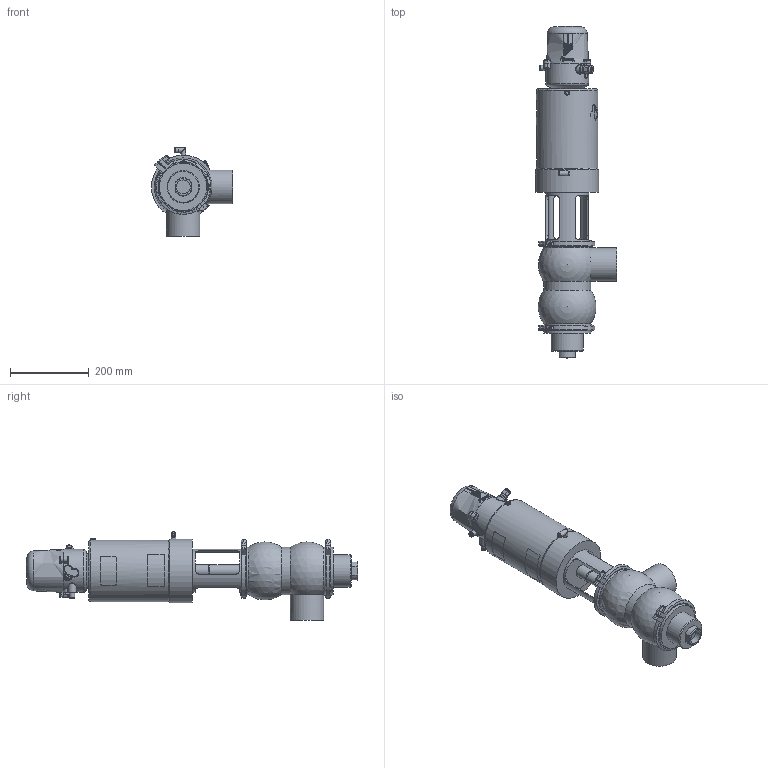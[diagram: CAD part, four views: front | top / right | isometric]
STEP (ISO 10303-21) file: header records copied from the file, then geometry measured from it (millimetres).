
FILE_DESCRIPTION (( 'STEP AP214' ), '1' );
FILE_NAME ('INNOVA S DB-90 W DIN 080 & C-TOP S_10.251.16.0018.STEP', '2024-08-19T10:15:47', ( '' ), ( '' ), 'SwSTEP 2.0', 'SolidWorks 2023', '' );
FILE_SCHEMA (( 'AUTOMOTIVE_DESIGN' ));
Length unit declared in the file: millimetre
Products named in the file (7): 10.240.15.0001_DN 080; 10.251.15.0010_DIN 080; INNOVA S DB-90 W DIN 080 & C-TOP S_10.251.16.0018; 10.251.15.0001_DN 080; 10.251.15.0002_DN 080; 10.426.15.0001_C-TOP S - 1 EV; 10.250.15.0002_Type S T2
Assembly tree (7 placements, depth 2):
  INNOVA S DB-90 W DIN 080 & C-TOP S_10.251.16.0018
    10.251.15.0001_DN 080
    10.250.15.0002_Type S T2
    10.426.15.0001_C-TOP S - 1 EV
    10.251.15.0010_DIN 080
    10.240.15.0001_DN 080  x2
    10.251.15.0002_DN 080
Bounding box: 205.5 x 842 x 224 mm (x, y, z)
Volume: 10458097.2 mm3; surface area: 623955.6 mm2
Topology: 7 solids, 7 shells, 1184 faces, 2868 edges, 1905 vertices
Faces by surface type: plane 412, cylinder 369, cone 202, bspline 160, torus 33, sphere 8
Full cylindrical faces by diameter (mm): 0.371 x17, 0.512 x16, 0.658 x16, 0.795 x16, 0.94 x15, 1.098 x15, 1.241 x13, 1.382 x13, 1.523 x11, 1.669 x10, 2.201 x1, 4.2 x2, 5 x1, 5.5 x2, 6 x3, 6.15 x1, 8 x5, 8.5 x1, 10 x1, 10.5 x2, 11 x2, 12.5 x6, 13 x2, 13.5 x2, 17 x3, 20 x2, 22 x2, 30.5 x1, 32 x1, 35 x1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
Entity records: 59252 total; most frequent: CARTESIAN_POINT 28533, ORIENTED_EDGE 4590, DIRECTION 3691, EDGE_CURVE 2295, VERTEX_POINT 1623, EDGE_LOOP 1574, AXIS2_PLACEMENT_3D 1506, FACE_OUTER_BOUND 1337
